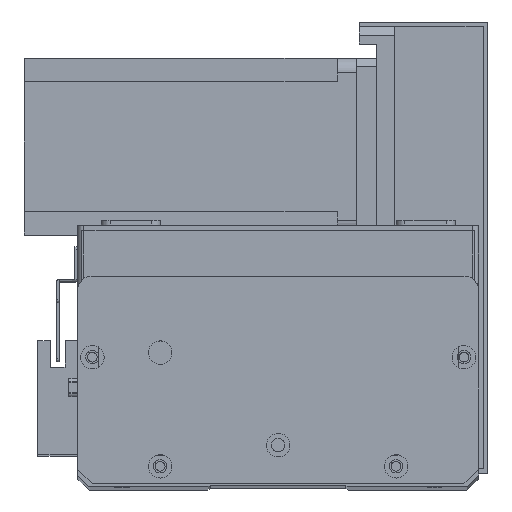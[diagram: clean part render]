
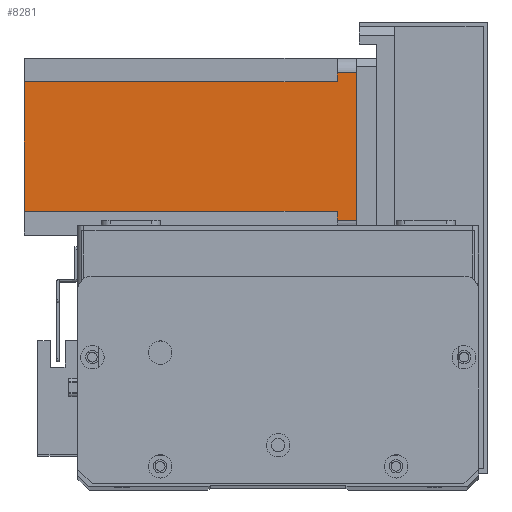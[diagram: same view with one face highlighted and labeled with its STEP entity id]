
A CAD part, top view. The second image highlights one B-rep face of the part: STEP entity #8281.
In plain terms, the highlighted planar face has unit normal (0, 0, 1) as drawn and (0, 1, 0) by its records, which use the part's own axes.
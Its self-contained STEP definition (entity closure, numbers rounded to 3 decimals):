
#63 = VECTOR ( 'NONE', #23953, 1000. ) ;
#81 = EDGE_CURVE ( 'NONE', #4451, #27270, #25584, .T. ) ;
#137 = PLANE ( 'NONE',  #26500 ) ;
#2258 = LINE ( 'NONE', #15225, #13668 ) ;
#4353 = LINE ( 'NONE', #26559, #21537 ) ;
#4451 = VERTEX_POINT ( 'NONE', #16933 ) ;
#4574 = VERTEX_POINT ( 'NONE', #11204 ) ;
#4971 = CARTESIAN_POINT ( 'NONE',  ( 5., 60., 0. ) ) ;
#5151 = ORIENTED_EDGE ( 'NONE', *, *, #11062, .F. ) ;
#6218 = DIRECTION ( 'NONE',  ( 0., 0., -1. ) ) ;
#6652 = CARTESIAN_POINT ( 'NONE',  ( 55., 60., -112.5 ) ) ;
#6688 = DIRECTION ( 'NONE',  ( -1., 0., 0. ) ) ;
#7665 = EDGE_LOOP ( 'NONE', ( #16192, #15592, #5151, #20180, #22430, #21411, #18685, #11497 ) ) ;
#8281 = ADVANCED_FACE ( 'NONE', ( #28715 ), #137, .T. ) ;
#8718 = LINE ( 'NONE', #6652, #19818 ) ;
#10263 = VERTEX_POINT ( 'NONE', #26619 ) ;
#10609 = LINE ( 'NONE', #24461, #21698 ) ;
#10739 = EDGE_CURVE ( 'NONE', #4451, #12841, #8718, .T. ) ;
#11062 = EDGE_CURVE ( 'NONE', #4574, #12841, #12219, .T. ) ;
#11204 = CARTESIAN_POINT ( 'NONE',  ( 52., 60., -6.5 ) ) ;
#11497 = ORIENTED_EDGE ( 'NONE', *, *, #18839, .T. ) ;
#11593 = EDGE_CURVE ( 'NONE', #10263, #4574, #21890, .T. ) ;
#12219 = LINE ( 'NONE', #24015, #63 ) ;
#12548 = EDGE_CURVE ( 'NONE', #10263, #23039, #26235, .T. ) ;
#12841 = VERTEX_POINT ( 'NONE', #14925 ) ;
#12987 = DIRECTION ( 'NONE',  ( 0., 0., 1. ) ) ;
#13668 = VECTOR ( 'NONE', #12987, 1000. ) ;
#14799 = EDGE_CURVE ( 'NONE', #19819, #23039, #4353, .T. ) ;
#14925 = CARTESIAN_POINT ( 'NONE',  ( 55., 60., -6.5 ) ) ;
#15225 = CARTESIAN_POINT ( 'NONE',  ( 5., 60., -112.5 ) ) ;
#15592 = ORIENTED_EDGE ( 'NONE', *, *, #10739, .T. ) ;
#15936 = DIRECTION ( 'NONE',  ( -1., 0., 0. ) ) ;
#15989 = VECTOR ( 'NONE', #16262, 1000. ) ;
#16192 = ORIENTED_EDGE ( 'NONE', *, *, #81, .F. ) ;
#16262 = DIRECTION ( 'NONE',  ( 0., 0., 1. ) ) ;
#16352 = CARTESIAN_POINT ( 'NONE',  ( 52., 60., -112.5 ) ) ;
#16933 = CARTESIAN_POINT ( 'NONE',  ( 55., 60., 0. ) ) ;
#18295 = EDGE_CURVE ( 'NONE', #19819, #28158, #10609, .T. ) ;
#18366 = CARTESIAN_POINT ( 'NONE',  ( 8., 60., -6.5 ) ) ;
#18685 = ORIENTED_EDGE ( 'NONE', *, *, #18295, .T. ) ;
#18839 = EDGE_CURVE ( 'NONE', #28158, #27270, #2258, .T. ) ;
#19743 = VECTOR ( 'NONE', #21114, 1000. ) ;
#19818 = VECTOR ( 'NONE', #6218, 1000. ) ;
#19819 = VERTEX_POINT ( 'NONE', #18366 ) ;
#20180 = ORIENTED_EDGE ( 'NONE', *, *, #11593, .F. ) ;
#20381 = VECTOR ( 'NONE', #15936, 1000. ) ;
#20830 = CARTESIAN_POINT ( 'NONE',  ( 0., 60., 0. ) ) ;
#21114 = DIRECTION ( 'NONE',  ( -1., 0., 0. ) ) ;
#21243 = CARTESIAN_POINT ( 'NONE',  ( 0., 60., -112.5 ) ) ;
#21411 = ORIENTED_EDGE ( 'NONE', *, *, #14799, .F. ) ;
#21537 = VECTOR ( 'NONE', #26494, 1000. ) ;
#21698 = VECTOR ( 'NONE', #6688, 1000. ) ;
#21890 = LINE ( 'NONE', #16352, #15989 ) ;
#22430 = ORIENTED_EDGE ( 'NONE', *, *, #12548, .T. ) ;
#23039 = VERTEX_POINT ( 'NONE', #28206 ) ;
#23953 = DIRECTION ( 'NONE',  ( 1., 0., 0. ) ) ;
#24015 = CARTESIAN_POINT ( 'NONE',  ( 52., 60., -6.5 ) ) ;
#24461 = CARTESIAN_POINT ( 'NONE',  ( 8., 60., -6.5 ) ) ;
#24575 = CARTESIAN_POINT ( 'NONE',  ( 5., 60., -6.5 ) ) ;
#25584 = LINE ( 'NONE', #20830, #19743 ) ;
#26235 = LINE ( 'NONE', #21243, #20381 ) ;
#26494 = DIRECTION ( 'NONE',  ( 0., 0., -1. ) ) ;
#26500 = AXIS2_PLACEMENT_3D ( 'NONE', #28728, #28199, #28131 ) ;
#26559 = CARTESIAN_POINT ( 'NONE',  ( 8., 60., -112.5 ) ) ;
#26619 = CARTESIAN_POINT ( 'NONE',  ( 52., 60., -112.5 ) ) ;
#27270 = VERTEX_POINT ( 'NONE', #4971 ) ;
#28131 = DIRECTION ( 'NONE',  ( 0., 0., 1. ) ) ;
#28158 = VERTEX_POINT ( 'NONE', #24575 ) ;
#28199 = DIRECTION ( 'NONE',  ( 0., 1., 0. ) ) ;
#28206 = CARTESIAN_POINT ( 'NONE',  ( 8., 60., -112.5 ) ) ;
#28715 = FACE_OUTER_BOUND ( 'NONE', #7665, .T. ) ;
#28728 = CARTESIAN_POINT ( 'NONE',  ( 0., 60., -112.5 ) ) ;
